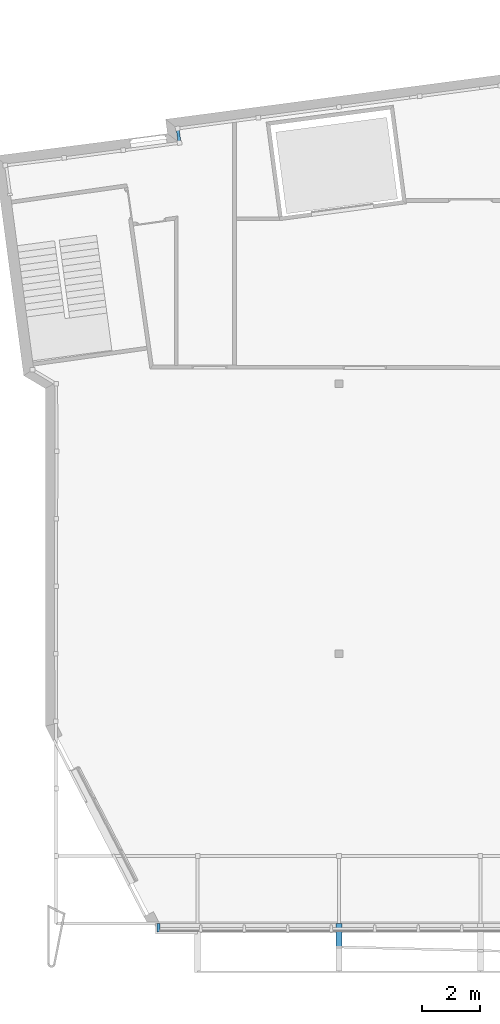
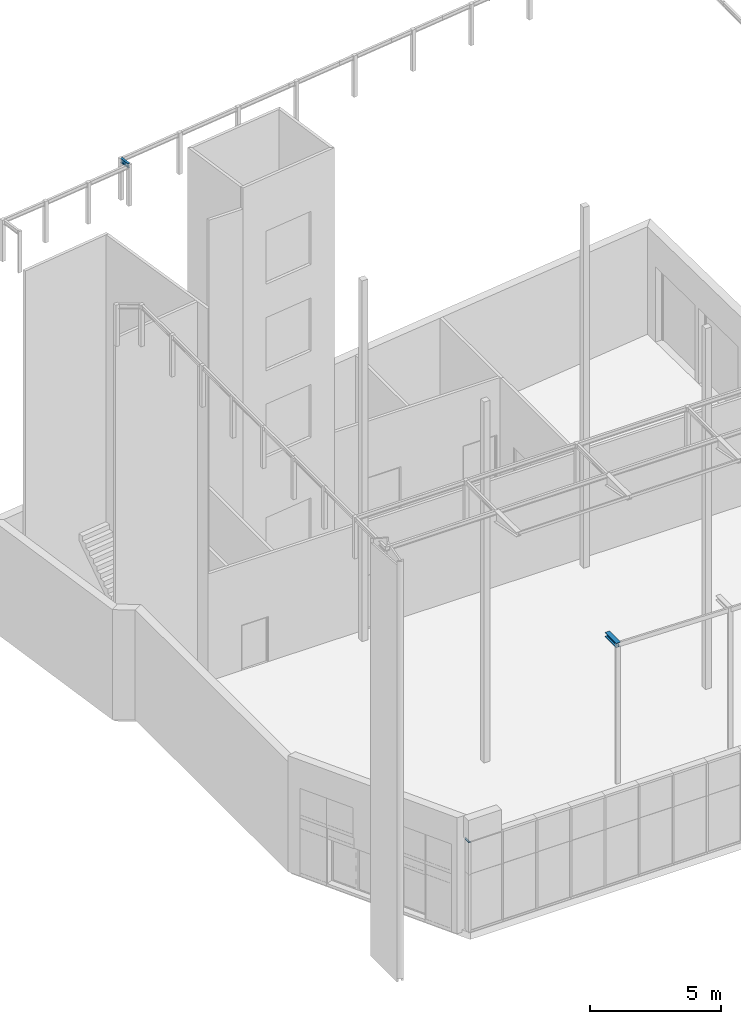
# One storey, part 19 of 40: 2 beams, 1 member, 1 element without a shape of its own.
"""IFC2X3 building model written with IfcOpenShell, lengths in metres."""

from ifc_helpers import new_model, entity, si_unit, converted_unit, money_unit, point, direction, frame, frame_2d, origin_with_axes, place, context, subcontext, project, spatial, polyline, circle_curve, parameter, trimmed, segment, composite_curve, outline, extrude, clip, halfspace, material, type_object, element, aggregate, save


model = new_model("IFC2X3")

# Units and contexts
model_context = context("Model", 3, precision=1e-05, world=origin_with_axes(), true_north=direction((0.0, 1.0)))
body_context = subcontext(model_context, "Body", "Model", "MODEL_VIEW")
ifc_project = project(units=[si_unit("LENGTHUNIT", "METRE"), si_unit("AREAUNIT", "SQUARE_METRE"), si_unit("VOLUMEUNIT", "CUBIC_METRE"), converted_unit("PLANEANGLEUNIT", "DEGREE", entity("IfcPlaneAngleMeasure", 0.0174532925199), si_unit("PLANEANGLEUNIT", "RADIAN"), dimensions=[0, 0, 0, 0, 0, 0, 0]), si_unit("SOLIDANGLEUNIT", "STERADIAN"), money_unit("EUR"), converted_unit("TIMEUNIT", "Year", entity("IfcTimeMeasure", 31556926.0), si_unit("TIMEUNIT", "SECOND"), dimensions=[0, 0, 0, 0, 0, 0, 0]), si_unit("MASSUNIT", "GRAM"), si_unit("THERMODYNAMICTEMPERATUREUNIT", "DEGREE_CELSIUS"), si_unit("LUMINOUSINTENSITYUNIT", "LUMEN")], contexts=[model_context])

# Site, building, storey
site_placement = place(None, origin_with_axes())
site = spatial("IfcSite", under=ifc_project, at=site_placement, Name="Undefined", CompositionType="ELEMENT")
building_placement = place(site_placement, origin_with_axes())
building = spatial("IfcBuilding", under=site, at=building_placement, Name="Undefined", CompositionType="ELEMENT")
storey_placement = place(building_placement, origin_with_axes())
storey = spatial("IfcBuildingStorey", under=building, at=storey_placement, Name="Rez de chauss\x8ee", CompositionType="ELEMENT", Elevation=0.0)

# Beams
ifc_material_1 = material(Name="STEEL/S235JRG2 3386696625")
beam_type_1 = type_object("IfcBeamType", Name="IPE200", PredefinedType="NOTDEFINED")
beam_1_placement = place(storey_placement, frame((4.25342815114, 26.9096941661, 19.025), z_axis=(0.0, 0.0, 1.0), x_axis=(0.991215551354, 0.132256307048, 0.0)))
element("IfcBeam", 1, at=beam_1_placement, inside=storey, type_object=beam_type_1, material=ifc_material_1, Name="Poutre", ObjectType="BEAM", context=body_context, shape_type="SweptSolid", body=[
    extrude(outline(composite_curve([segment(polyline([(0.05, -0.1), (0.05, -0.0915), (0.0147999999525, -0.0915)]), True, "CONTINUOUS"), segment(trimmed(circle_curve(frame_2d((0.0147999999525, -0.0795), x_axis=(-1.0, 0.0)), 0.012), [point((0.0147999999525, -0.0915)), parameter(90.0)], [point((0.0027999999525, -0.0795)), parameter(0.0)], False, "CARTESIAN"), True, "CONTINUOUS"), segment(polyline([(0.0027999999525, -0.0795), (0.0027999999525, 0.0795)]), True, "CONTINUOUS"), segment(trimmed(circle_curve(frame_2d((0.0147999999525, 0.0795), x_axis=(0.0, 1.0)), 0.012), [point((0.0027999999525, 0.0795)), parameter(90.0)], [point((0.0147999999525, 0.0915)), parameter(0.0)], False, "CARTESIAN"), True, "CONTINUOUS"), segment(polyline([(0.0147999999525, 0.0915), (0.05, 0.0915), (0.05, 0.1), (-0.05, 0.1), (-0.05, 0.0915), (-0.0147999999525, 0.0915)]), True, "CONTINUOUS"), segment(trimmed(circle_curve(frame_2d((-0.0147999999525, 0.0795), x_axis=(1.0, 0.0)), 0.012), [point((-0.0147999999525, 0.0915)), parameter(90.0)], [point((-0.0027999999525, 0.0795)), parameter(0.0)], False, "CARTESIAN"), True, "CONTINUOUS"), segment(polyline([(-0.0027999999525, 0.0795), (-0.0027999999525, -0.0795)]), True, "CONTINUOUS"), segment(trimmed(circle_curve(frame_2d((-0.0147999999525, -0.0795), x_axis=(0.0, -1.0)), 0.012), [point((-0.0027999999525, -0.0795)), parameter(90.0)], [point((-0.0147999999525, -0.0915)), parameter(0.0)], False, "CARTESIAN"), True, "CONTINUOUS"), segment(polyline([(-0.0147999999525, -0.0915), (-0.05, -0.0915), (-0.05, -0.1), (0.05, -0.1)]), True, "CONTINUOUS")], self_intersect=False)), frame((0.0, 0.49999807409, 0.0), z_axis=(0.0, -1.0, 0.0), x_axis=(1.0, 0.0, 0.0)), (0.0, 0.0, 1.0), 0.49999807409),
])
beam_type_2 = type_object("IfcBeamType", Name="HEB200", PredefinedType="NOTDEFINED")
beam_2_placement = place(storey_placement, frame((9.74999999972, -2.6337665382e-10, 11.65), z_axis=(0.0, 0.0, 1.0), x_axis=(-1.0, 0.0, 0.0)))
element("IfcBeam", 2, at=beam_2_placement, inside=storey, type_object=beam_type_2, material=ifc_material_1, Name="BEAM", ObjectType="BEAM", context=body_context, shape_type="SweptSolid", body=[
    extrude(outline(composite_curve([segment(polyline([(0.1, -0.1), (0.1, -0.085), (0.0225, -0.085)]), True, "CONTINUOUS"), segment(trimmed(circle_curve(frame_2d((0.0225, -0.067), x_axis=(-1.0, 0.0)), 0.018), [point((0.0225, -0.085)), parameter(90.0)], [point((0.0045, -0.067)), parameter(0.0)], False, "CARTESIAN"), True, "CONTINUOUS"), segment(polyline([(0.0045, -0.067), (0.0045, 0.067)]), True, "CONTINUOUS"), segment(trimmed(circle_curve(frame_2d((0.0225, 0.067), x_axis=(0.0, 1.0)), 0.018), [point((0.0045, 0.067)), parameter(90.0)], [point((0.0225, 0.085)), parameter(0.0)], False, "CARTESIAN"), True, "CONTINUOUS"), segment(polyline([(0.0225, 0.085), (0.1, 0.085), (0.1, 0.1), (-0.1, 0.1), (-0.1, 0.085), (-0.0225, 0.085)]), True, "CONTINUOUS"), segment(trimmed(circle_curve(frame_2d((-0.0225, 0.067), x_axis=(1.0, 0.0)), 0.018), [point((-0.0225, 0.085)), parameter(90.0)], [point((-0.0045, 0.067)), parameter(0.0)], False, "CARTESIAN"), True, "CONTINUOUS"), segment(polyline([(-0.0045, 0.067), (-0.0045, -0.067)]), True, "CONTINUOUS"), segment(trimmed(circle_curve(frame_2d((-0.0225, -0.067), x_axis=(0.0, -1.0)), 0.018), [point((-0.0045, -0.067)), parameter(90.0)], [point((-0.0225, -0.085)), parameter(0.0)], False, "CARTESIAN"), True, "CONTINUOUS"), segment(polyline([(-0.0225, -0.085), (-0.1, -0.085), (-0.1, -0.1), (0.1, -0.1)]), True, "CONTINUOUS")], self_intersect=False)), frame((0.0, 0.852231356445, 0.0), z_axis=(0.0, -1.0, 0.0), x_axis=(1.0, 0.0, 0.0)), (0.0, 0.0, 1.0), 0.852231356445),
])

# Curtain wall, member
curtain_wall_type = type_object("IfcCurtainWallType", Name="Type de mur-rideau", PredefinedType="NOTDEFINED")
curtain_wall_placement = place(storey_placement, frame((61.0415862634, -0.249999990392, 0.1), z_axis=(0.0, 0.0, 1.0), x_axis=(1.0, 0.0, 0.0)))
curtain_wall = element("IfcCurtainWall", 3, at=curtain_wall_placement, inside=storey, type_object=curtain_wall_type, Name="CurtainWall_02", ObjectType="CURTAIN WALL")
ifc_material_2 = material(Name="25 % 359672764")
member_type = type_object("IfcMemberType", Name="Cadre 100 x 300", PredefinedType="NOTDEFINED")
member_placement = place(curtain_wall_placement, frame((-57.5584137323, 9.90391415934e-07, 4.2), z_axis=(0.0, 0.0, 1.0), x_axis=(-1.0, 1.72067183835e-08, 0.0)))
member = element("IfcMember", 4, at=member_placement, type_object=member_type, material=ifc_material_2, Name="Frame-Bnd-774", context=body_context, shape_type="Clipping", body=[
    clip(extrude(outline(polyline([(-8.60335802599e-10, -0.05), (0.0999999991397, -0.0500000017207), (0.100000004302, 0.249999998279), (4.30167945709e-09, 0.25), (-8.60335802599e-10, -0.05)])), frame((0.0, 0.0, 0.0), z_axis=(0.0, 0.0, 1.0), x_axis=(-1.0, -1.72067183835e-08, 0.0)), (0.0, 0.0, 1.0), 0.1), halfspace(frame((-0.05, 0.0, 0.05), z_axis=(0.707106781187, 0.0, -0.707106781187), x_axis=(0.0, 1.0, 0.0)), True)),
])
aggregate(curtain_wall, [member])

save(model, "model.ifc")
